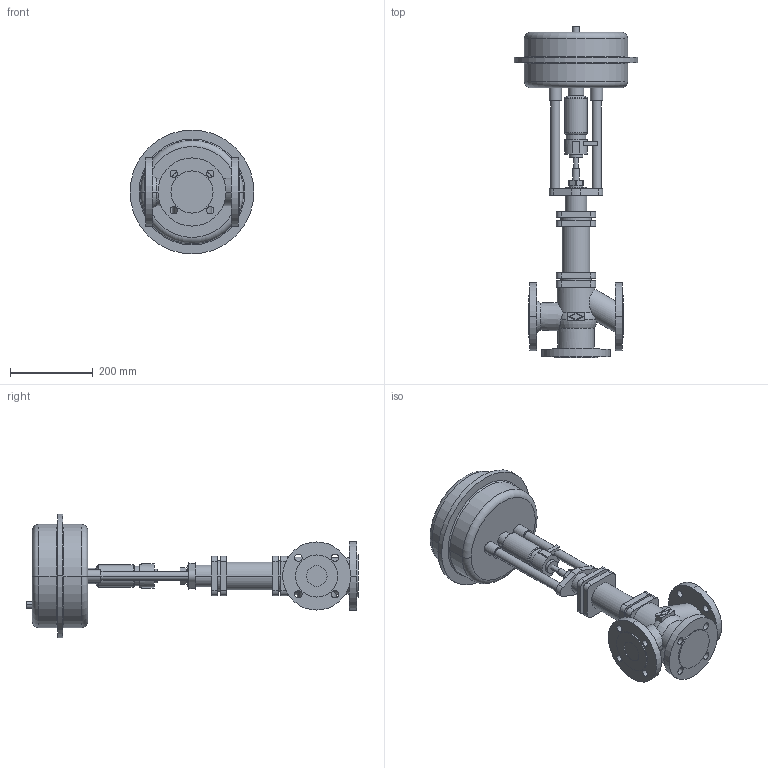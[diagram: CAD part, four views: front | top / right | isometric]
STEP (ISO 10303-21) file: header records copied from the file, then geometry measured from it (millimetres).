
FILE_DESCRIPTION(('OneSpaceDesigner STEP Export'),'2;1');
FILE_NAME('c000000757.stp','2006-09-21T 8:45:34',(''),(''),'OneSpace Designer STEP processor for AP214 (Solid Model)','OneSpace Designer 13.20A 18-Aug-2005 (C) CoCreate Software GmbH','');
FILE_SCHEMA(('AUTOMOTIVE_DESIGN { 1 0 10303 214 1 1 1 1 }'));
Length unit declared in the file: millimetre
Products named in the file (2): 1; 2
Bounding box: 300 x 804.1 x 300 mm (x, y, z)
Volume: 11186092.4 mm3; surface area: 635072.9 mm2
Topology: 2 solids, 2 shells, 243 faces, 594 edges, 389 vertices
Faces by surface type: cylinder 116, plane 97, torus 22, cone 8
Entity records: 6842 total; most frequent: CARTESIAN_POINT 1487, ORIENTED_EDGE 1188, DIRECTION 998, EDGE_CURVE 594, VERTEX_POINT 389, AXIS2_PLACEMENT_3D 360, EDGE_LOOP 301, VECTOR 278
